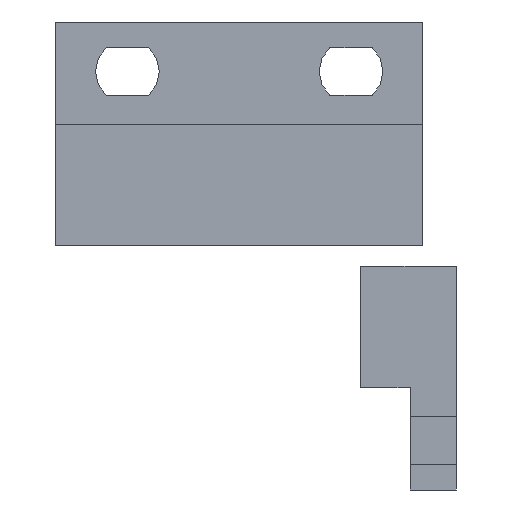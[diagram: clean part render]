
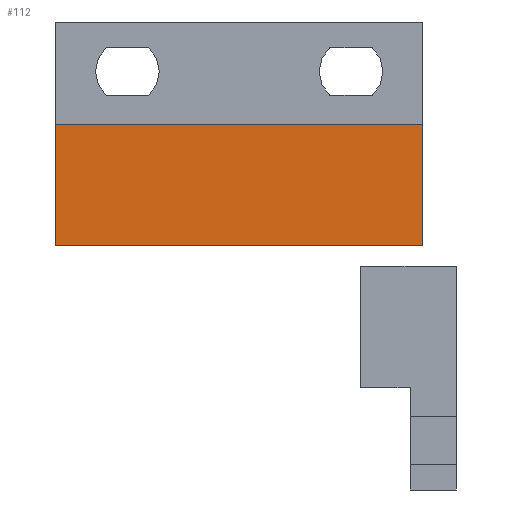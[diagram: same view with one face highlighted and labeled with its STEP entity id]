
A CAD part, left-side view. The second image highlights one B-rep face of the part: STEP entity #112.
In plain terms, the highlighted planar face has unit normal (-1, 0, 0).
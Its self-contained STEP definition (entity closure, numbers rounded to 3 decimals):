
#112=ADVANCED_FACE('',(#176),#2296,.T.);
#176=FACE_OUTER_BOUND('',#252,.T.);
#252=EDGE_LOOP('',(#497,#498,#499,#500));
#497=ORIENTED_EDGE('',*,*,#1662,.F.);
#498=ORIENTED_EDGE('',*,*,#1648,.F.);
#499=ORIENTED_EDGE('',*,*,#1649,.F.);
#500=ORIENTED_EDGE('',*,*,#1641,.F.);
#885=PCURVE('',#2289,#1221);
#892=PCURVE('',#2290,#1228);
#893=PCURVE('',#2291,#1229);
#916=PCURVE('',#2294,#1252);
#929=PCURVE('',#2296,#1265);
#930=PCURVE('',#2296,#1266);
#931=PCURVE('',#2296,#1267);
#932=PCURVE('',#2296,#1268);
#1221=DEFINITIONAL_REPRESENTATION('',(#1934),#4212);
#1228=DEFINITIONAL_REPRESENTATION('',(#1948),#4212);
#1229=DEFINITIONAL_REPRESENTATION('',(#1950),#4212);
#1252=DEFINITIONAL_REPRESENTATION('',(#1978),#4212);
#1265=DEFINITIONAL_REPRESENTATION('',(#1991),#4212);
#1266=DEFINITIONAL_REPRESENTATION('',(#1992),#4212);
#1267=DEFINITIONAL_REPRESENTATION('',(#1993),#4212);
#1268=DEFINITIONAL_REPRESENTATION('',(#1994),#4212);
#1473=SURFACE_CURVE('',#1933,(#885,#932),.PCURVE_S1.);
#1480=SURFACE_CURVE('',#1947,(#892,#930),.PCURVE_S1.);
#1481=SURFACE_CURVE('',#1949,(#893,#931),.PCURVE_S1.);
#1494=SURFACE_CURVE('',#1977,(#916,#929),.PCURVE_S1.);
#1641=EDGE_CURVE('',#2187,#2186,#1473,.T.);
#1648=EDGE_CURVE('',#2196,#2191,#1480,.T.);
#1649=EDGE_CURVE('',#2186,#2196,#1481,.T.);
#1662=EDGE_CURVE('',#2191,#2187,#1494,.T.);
#1933=B_SPLINE_CURVE_WITH_KNOTS('',1,(#3419,#3420),.UNSPECIFIED.,.F.,.F.,
(2,2),(46.4,54.),.UNSPECIFIED.);
#1934=B_SPLINE_CURVE_WITH_KNOTS('',1,(#3421,#3422),.UNSPECIFIED.,.F.,.F.,
(2,2),(46.4,54.),.UNSPECIFIED.);
#1947=B_SPLINE_CURVE_WITH_KNOTS('',1,(#3447,#3448),.UNSPECIFIED.,.F.,.F.,
(2,2),(-14.,-6.4),.UNSPECIFIED.);
#1948=B_SPLINE_CURVE_WITH_KNOTS('',1,(#3449,#3450),.UNSPECIFIED.,.F.,.F.,
(2,2),(-14.,-6.4),.UNSPECIFIED.);
#1949=B_SPLINE_CURVE_WITH_KNOTS('',1,(#3451,#3452),.UNSPECIFIED.,.F.,.F.,
(2,2),(0.,23.),.UNSPECIFIED.);
#1950=B_SPLINE_CURVE_WITH_KNOTS('',1,(#3453,#3454),.UNSPECIFIED.,.F.,.F.,
(2,2),(0.,23.),.UNSPECIFIED.);
#1977=B_SPLINE_CURVE_WITH_KNOTS('',1,(#3561,#3562),.UNSPECIFIED.,.F.,.F.,
(2,2),(-23.,0.),.UNSPECIFIED.);
#1978=B_SPLINE_CURVE_WITH_KNOTS('',1,(#3563,#3564),.UNSPECIFIED.,.F.,.F.,
(2,2),(-23.,0.),.UNSPECIFIED.);
#1991=B_SPLINE_CURVE_WITH_KNOTS('',1,(#3669,#3670),.UNSPECIFIED.,.F.,.F.,
(2,2),(-23.,0.),.UNSPECIFIED.);
#1992=B_SPLINE_CURVE_WITH_KNOTS('',1,(#3671,#3672),.UNSPECIFIED.,.F.,.F.,
(2,2),(-14.,-6.4),.UNSPECIFIED.);
#1993=B_SPLINE_CURVE_WITH_KNOTS('',1,(#3673,#3674),.UNSPECIFIED.,.F.,.F.,
(2,2),(0.,23.),.UNSPECIFIED.);
#1994=B_SPLINE_CURVE_WITH_KNOTS('',1,(#3675,#3676),.UNSPECIFIED.,.F.,.F.,
(2,2),(46.4,54.),.UNSPECIFIED.);
#2186=VERTEX_POINT('',#3376);
#2187=VERTEX_POINT('',#3377);
#2191=VERTEX_POINT('',#3381);
#2196=VERTEX_POINT('',#3386);
#2289=PLANE('',#2341);
#2290=PLANE('',#2342);
#2291=PLANE('',#2343);
#2294=PLANE('',#2346);
#2296=PLANE('',#2348);
#2341=AXIS2_PLACEMENT_3D('',#3303,#2376,$);
#2342=AXIS2_PLACEMENT_3D('',#3304,#2377,$);
#2343=AXIS2_PLACEMENT_3D('',#3305,#2378,$);
#2346=AXIS2_PLACEMENT_3D('',#3308,#2381,$);
#2348=AXIS2_PLACEMENT_3D('',#3310,#2383,$);
#2376=DIRECTION('',(0.,-1.,0.));
#2377=DIRECTION('',(0.,1.,0.));
#2378=DIRECTION('',(0.,0.,-1.));
#2381=DIRECTION('',(0.,0.,1.));
#2383=DIRECTION('',(-1.,0.,0.));
#3303=CARTESIAN_POINT('',(-788.06,-536.9,153.34));
#3304=CARTESIAN_POINT('',(-788.06,-513.9,153.34));
#3305=CARTESIAN_POINT('',(-788.,-536.9,139.2));
#3308=CARTESIAN_POINT('',(-788.,-536.9,146.8));
#3310=CARTESIAN_POINT('',(-788.,-536.9,153.2));
#3376=CARTESIAN_POINT('',(-788.,-536.9,139.2));
#3377=CARTESIAN_POINT('',(-788.,-536.9,146.8));
#3381=CARTESIAN_POINT('',(-788.,-513.9,146.8));
#3386=CARTESIAN_POINT('',(-788.,-513.9,139.2));
#3419=CARTESIAN_POINT('',(-788.,-536.9,146.8));
#3420=CARTESIAN_POINT('',(-788.,-536.9,139.2));
#3421=CARTESIAN_POINT('',(-7.6,-6.));
#3422=CARTESIAN_POINT('',(0.,-6.));
#3447=CARTESIAN_POINT('',(-788.,-513.9,139.2));
#3448=CARTESIAN_POINT('',(-788.,-513.9,146.8));
#3449=CARTESIAN_POINT('',(0.,7.6));
#3450=CARTESIAN_POINT('',(0.,0.));
#3451=CARTESIAN_POINT('',(-788.,-536.9,139.2));
#3452=CARTESIAN_POINT('',(-788.,-513.9,139.2));
#3453=CARTESIAN_POINT('',(0.,14.));
#3454=CARTESIAN_POINT('',(23.,14.));
#3561=CARTESIAN_POINT('',(-788.,-513.9,146.8));
#3562=CARTESIAN_POINT('',(-788.,-536.9,146.8));
#3563=CARTESIAN_POINT('',(6.4,23.));
#3564=CARTESIAN_POINT('',(6.4,0.));
#3669=CARTESIAN_POINT('',(23.,6.4));
#3670=CARTESIAN_POINT('',(0.,6.4));
#3671=CARTESIAN_POINT('',(23.,14.));
#3672=CARTESIAN_POINT('',(23.,6.4));
#3673=CARTESIAN_POINT('',(0.,14.));
#3674=CARTESIAN_POINT('',(23.,14.));
#3675=CARTESIAN_POINT('',(0.,6.4));
#3676=CARTESIAN_POINT('',(0.,14.));
#4212=(
GEOMETRIC_REPRESENTATION_CONTEXT(2)
PARAMETRIC_REPRESENTATION_CONTEXT()
REPRESENTATION_CONTEXT('pspace','')
);
